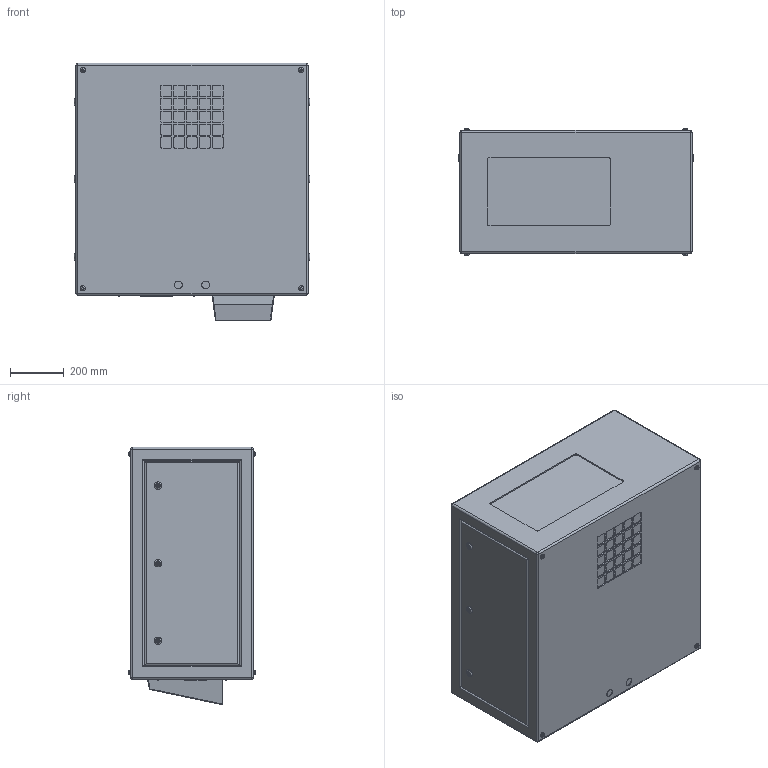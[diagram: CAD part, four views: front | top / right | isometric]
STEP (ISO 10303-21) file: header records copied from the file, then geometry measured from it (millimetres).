
FILE_DESCRIPTION (( 'STEP AP214' ), '1' );
FILE_NAME ('Cyclone 55.200.L R10.STEP', '2022-09-08T18:57:03', ( '' ), ( '' ), 'SwSTEP 2.0', 'SolidWorks 2020', '' );
FILE_SCHEMA (( 'AUTOMOTIVE_DESIGN' ));
Length unit declared in the file: inch
Products named in the file (1): Cyclone 55.200.L R10
Bounding box: 876.3 x 471.8 x 958.85 mm (x, y, z)
Volume: 340198385 mm3; surface area: 3455212.7 mm2
Topology: 1 solids, 7 shells, 585 faces, 1404 edges, 904 vertices
Faces by surface type: plane 289, cylinder 248, torus 40, sphere 8
Entity records: 21084 total; most frequent: CARTESIAN_POINT 3318, DIRECTION 3016, ORIENTED_EDGE 2792, EDGE_CURVE 1396, AXIS2_PLACEMENT_3D 1114, VERTEX_POINT 904, LINE 788, VECTOR 788
